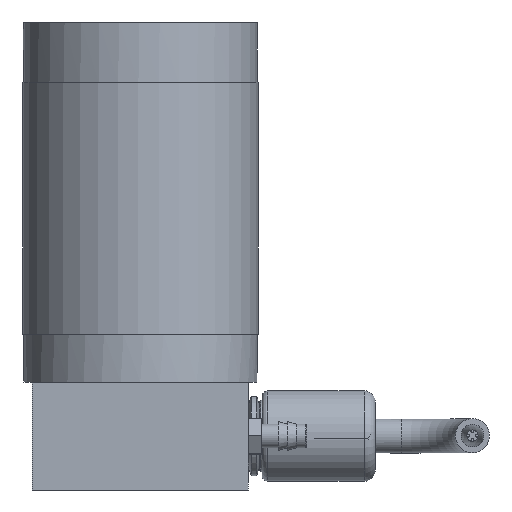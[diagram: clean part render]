
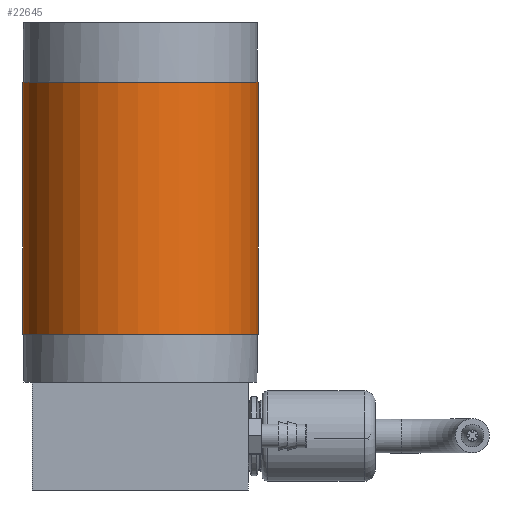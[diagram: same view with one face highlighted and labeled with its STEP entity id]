
A CAD part, left-side view. The second image highlights one B-rep face of the part: STEP entity #22645.
In plain terms, the highlighted cylindrical face has radius 20.765 mm (diameter 41.529 mm), a full revolution.
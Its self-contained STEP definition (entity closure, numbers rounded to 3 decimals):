
#5200=FACE_BOUND('',#7598,.T.);
#5363=CYLINDRICAL_SURFACE('',#23966,20.765);
#6146=FACE_OUTER_BOUND('',#7597,.T.);
#7597=EDGE_LOOP('',(#17248));
#7598=EDGE_LOOP('',(#17249));
#8423=CIRCLE('',#23967,20.765);
#8424=CIRCLE('',#23968,20.765);
#9818=VERTEX_POINT('',#35616);
#9819=VERTEX_POINT('',#35618);
#12459=EDGE_CURVE('',#9818,#9818,#8423,.T.);
#12460=EDGE_CURVE('',#9819,#9819,#8424,.T.);
#17248=ORIENTED_EDGE('',*,*,#12459,.T.);
#17249=ORIENTED_EDGE('',*,*,#12460,.F.);
#22645=ADVANCED_FACE('',(#6146,#5200),#5363,.T.);
#23966=AXIS2_PLACEMENT_3D('',#35615,#27172,#27173);
#23967=AXIS2_PLACEMENT_3D('',#35617,#27174,#27175);
#23968=AXIS2_PLACEMENT_3D('',#35619,#27176,#27177);
#27172=DIRECTION('center_axis',(0.,0.,1.));
#27173=DIRECTION('ref_axis',(-1.,0.016,0.));
#27174=DIRECTION('center_axis',(0.,0.,-1.));
#27175=DIRECTION('ref_axis',(-1.,0.016,0.));
#27176=DIRECTION('center_axis',(0.,0.,-1.));
#27177=DIRECTION('ref_axis',(-1.,0.016,0.));
#35615=CARTESIAN_POINT('Origin',(0.,0.,27.456));
#35616=CARTESIAN_POINT('',(20.762,-0.329,71.906));
#35617=CARTESIAN_POINT('Origin',(0.,0.,71.906));
#35618=CARTESIAN_POINT('',(20.762,-0.329,27.456));
#35619=CARTESIAN_POINT('Origin',(0.,0.,27.456));
